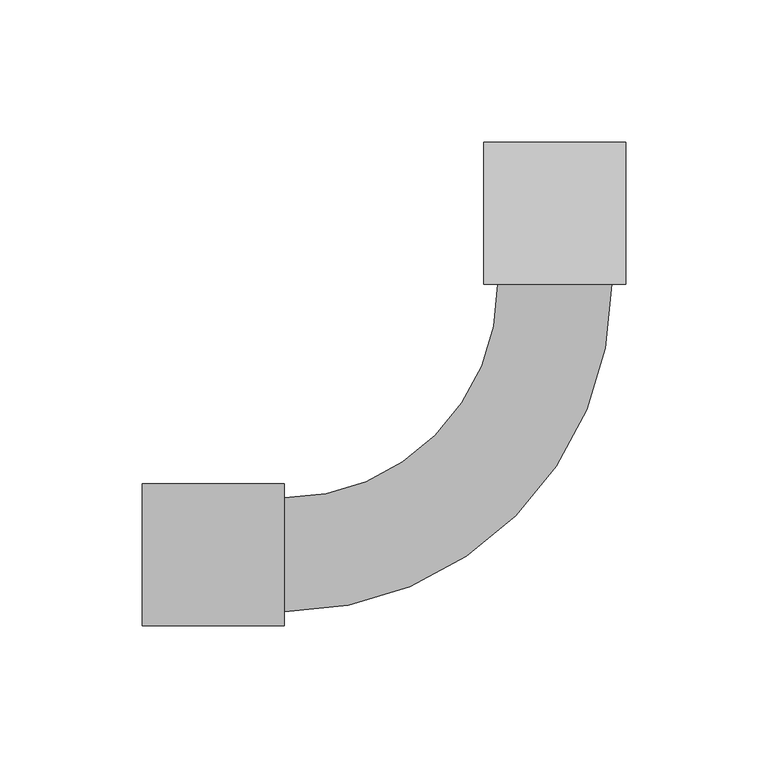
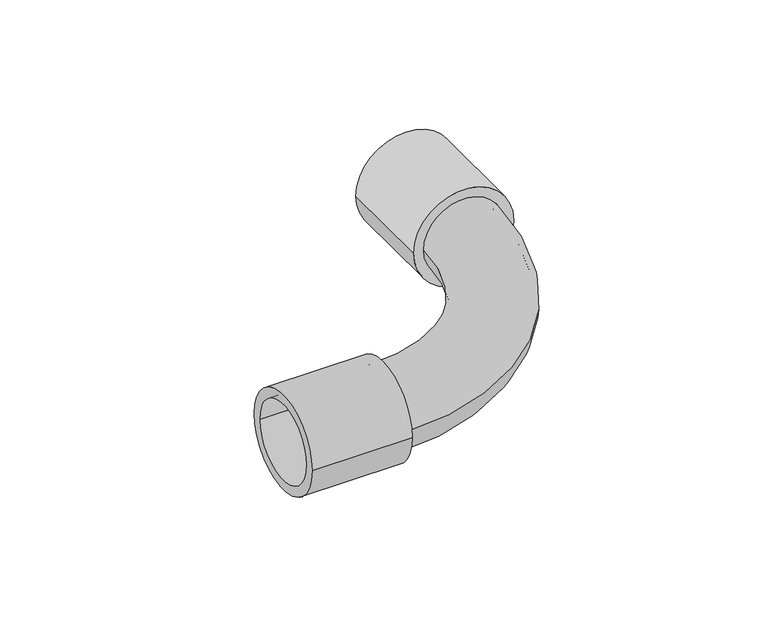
"""IFC4 building model written with IfcOpenShell, lengths in millimetres: cable carrier fitting geometry, КНС_ПоворотНа90ГрадусовТрубаТруба_IP67_DKC : Коробка."""

from ifc_helpers import new_model, si_unit, point, frame, origin, origin_2d, place, context, project, spatial, circle_curve, ellipse_curve, trimmed, segment, composite_curve, outline, extrude, source, transform, mapped, element, save
from ifc_brep_helpers import plane_surface, revolved_surface, advanced_brep


def cable_carrier_fitting_018abd7d(model_context):
    return source(origin(), model_context, "Body", "SolidModel", [
        advanced_brep(
        [(-95.0, -20.0, 0.0), (-95.0, 20.0, 0.0), (-95.0, -17.5, 0.0), (-95.0, 17.5, 0.0), (20.0, 95.0, 0.0), (-20.0, 95.0, 0.0), (17.5, 95.0, 0.0), (-17.5, 95.0, 0.0)],
        [
            (0, 1, circle_curve(frame((-95.0, 0.0, 0.0), z_axis=(-1.0, 0.0, 0.0), x_axis=(0.0, 1.0, 0.0)), 20.0)),
            (1, 0, circle_curve(frame((-95.0, 0.0, 0.0), z_axis=(-1.0, 0.0, 0.0), x_axis=(0.0, 1.0, 0.0)), 20.0)),
            (2, 3, circle_curve(frame((-95.0, 0.0, 0.0), z_axis=(1.0, 0.0, 0.0), x_axis=(0.0, 1.0, 0.0)), 17.5)),
            (3, 2, circle_curve(frame((-95.0, 0.0, 0.0), z_axis=(1.0, 0.0, 0.0), x_axis=(0.0, 1.0, 0.0)), 17.5)),
            (4, 5, circle_curve(frame((0.0, 95.0, 0.0), z_axis=(0.0, 1.0, 0.0), x_axis=(-1.0, 0.0, 0.0)), 20.0)),
            (5, 4, circle_curve(frame((0.0, 95.0, 0.0), z_axis=(0.0, 1.0, 0.0), x_axis=(-1.0, 0.0, 0.0)), 20.0)),
            (6, 7, circle_curve(frame((0.0, 95.0, 0.0), z_axis=(0.0, -1.0, 0.0), x_axis=(-1.0, 0.0, 0.0)), 17.5)),
            (7, 6, circle_curve(frame((0.0, 95.0, 0.0), z_axis=(0.0, -1.0, 0.0), x_axis=(-1.0, 0.0, 0.0)), 17.5)),
            (5, 1, circle_curve(frame((-95.0, 95.0, 0.0), z_axis=(0.0, 0.0, -1.0), x_axis=(0.0, -1.0, 0.0)), 75.0)),
            (0, 4, circle_curve(frame((-95.0, 95.0, 0.0), z_axis=(0.0, 0.0, 1.0), x_axis=(0.0, -1.0, 0.0)), 115.0)),
            (7, 3, circle_curve(frame((-95.0, 95.0, 0.0), z_axis=(0.0, 0.0, -1.0), x_axis=(0.0, -1.0, 0.0)), 77.5)),
            (2, 6, circle_curve(frame((-95.0, 95.0, 0.0), z_axis=(0.0, 0.0, 1.0), x_axis=(0.0, -1.0, 0.0)), 112.5)),
        ],
        [
            plane_surface(frame((-95.0, 0.0, 0.0), z_axis=(-1.0, 0.0, 0.0), x_axis=(0.0, 0.0, 1.0))),
            plane_surface(frame((0.0, 95.0, 0.0), z_axis=(0.0, 1.0, 0.0), x_axis=(0.0, 0.0, 1.0))),
            revolved_surface(trimmed(ellipse_curve(frame((-95.0, 0.0, 0.0), z_axis=(-1.0, 0.0, 0.0), x_axis=(0.0, 1.0, 0.0)), 20.0, 20.0), [point((-95.0, -20.0, 0.0))], [point((-95.0, 20.0, 0.0))], True, "CARTESIAN"), (-95.0, 95.0, 0.0), (0.0, 0.0, 1.0)),
            revolved_surface(trimmed(ellipse_curve(frame((-95.0, 0.0, 0.0), z_axis=(-1.0, 0.0, 0.0), x_axis=(0.0, 1.0, 0.0)), 20.0, 20.0), [point((-95.0, 20.0, 0.0))], [point((-95.0, -20.0, 0.0))], True, "CARTESIAN"), (-95.0, 95.0, 0.0), (0.0, 0.0, 1.0)),
            revolved_surface(trimmed(ellipse_curve(frame((-95.0, 0.0, 0.0), z_axis=(1.0, 0.0, 0.0), x_axis=(0.0, 1.0, 0.0)), 17.5, 17.5), [point((-95.0, -17.5, 0.0))], [point((-95.0, 17.5, 0.0))], True, "CARTESIAN"), (-95.0, 95.0, 0.0), (0.0, 0.0, 1.0)),
            revolved_surface(trimmed(ellipse_curve(frame((-95.0, 0.0, 0.0), z_axis=(1.0, 0.0, 0.0), x_axis=(0.0, 1.0, 0.0)), 17.5, 17.5), [point((-95.0, 17.5, 0.0))], [point((-95.0, -17.5, 0.0))], True, "CARTESIAN"), (-95.0, 95.0, 0.0), (0.0, 0.0, 1.0)),
        ],
        [
            (0, [[1, 2], [3, 4]]),
            (1, [[5, 6], [7, 8]]),
            (2, [[9, -1, 10, -6]]),
            (3, [[-10, -2, -9, -5]]),
            (4, [[11, -3, 12, -8]]),
            (5, [[-12, -4, -11, -7]]),
        ],
    ),
        extrude(outline(composite_curve([segment(trimmed(circle_curve(origin_2d(), 25.0), [point((0.0, 25.0))], [point((0.0, -25.0))], False, "CARTESIAN"), True, "CONTINUOUS"), segment(trimmed(circle_curve(origin_2d(), 25.0), [point((0.0, -25.0))], [point((0.0, 25.0))], False, "CARTESIAN"), True, "CONTINUOUS")], self_intersect=False), holes=[composite_curve([segment(trimmed(circle_curve(origin_2d(), 20.0), [point((0.0, 20.0))], [point((0.0, -20.0))], True, "CARTESIAN"), True, "CONTINUOUS"), segment(trimmed(circle_curve(origin_2d(), 20.0), [point((0.0, -20.0))], [point((0.0, 20.0))], True, "CARTESIAN"), True, "CONTINUOUS")], self_intersect=False)]), frame((0.0, 95.0, 0.0), z_axis=(0.0, 1.0, 0.0), x_axis=(0.0, 0.0, 1.0)), (0.0, 0.0, 1.0), 50.0),
        extrude(outline(composite_curve([segment(trimmed(circle_curve(origin_2d(), 25.0), [point((-25.0, 0.0))], [point((25.0, 0.0))], False, "CARTESIAN"), True, "CONTINUOUS"), segment(trimmed(circle_curve(origin_2d(), 25.0), [point((25.0, 0.0))], [point((-25.0, 0.0))], False, "CARTESIAN"), True, "CONTINUOUS")], self_intersect=False), holes=[composite_curve([segment(trimmed(circle_curve(origin_2d(), 20.0), [point((-20.0, 0.0))], [point((20.0, 0.0))], True, "CARTESIAN"), True, "CONTINUOUS"), segment(trimmed(circle_curve(origin_2d(), 20.0), [point((20.0, 0.0))], [point((-20.0, 0.0))], True, "CARTESIAN"), True, "CONTINUOUS")], self_intersect=False)]), frame((-145.0, 0.0, 0.0), z_axis=(1.0, 0.0, 0.0), x_axis=(0.0, 1.0, 0.0)), (0.0, 0.0, 1.0), 50.0),
    ])


if __name__ == "__main__":
    model = new_model("IFC4")
    model_context = context("Model", 3, world=origin())
    ifc_project = project(units=[si_unit("LENGTHUNIT", "METRE", prefix="MILLI")], contexts=[model_context])
    site = spatial("IfcSite", under=ifc_project)
    building = spatial("IfcBuilding", under=site)
    placement = place(None, origin())
    cable_carrier_fitting_shape = cable_carrier_fitting_018abd7d(model_context)
    element("IfcCableCarrierFitting", 1, ObjectType="КНС_ПоворотНа90ГрадусовТрубаТруба_IP67_DKC : Коробка", at=placement, inside=building, context=model_context, shape_type="MappedRepresentation", body=[
        mapped(cable_carrier_fitting_shape, transform((0.0, 0.0, 0.0), x_axis=(1.0, 0.0, 0.0), y_axis=(0.0, 1.0, 0.0), z_axis=(0.0, 0.0, 1.0))),
    ])
    save(model, "model.ifc")
